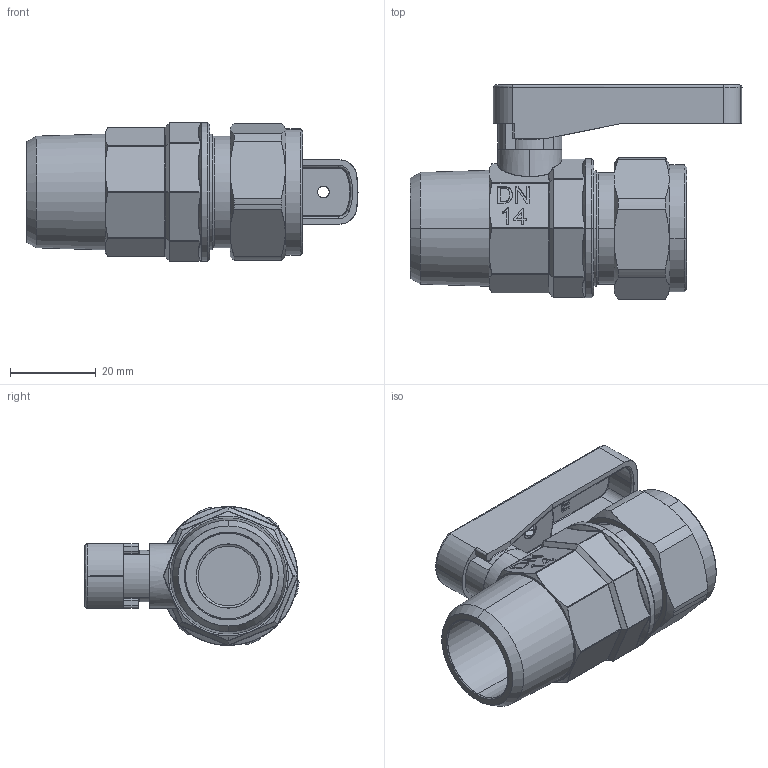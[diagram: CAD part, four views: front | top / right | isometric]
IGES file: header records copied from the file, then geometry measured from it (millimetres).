
Start section: SolidWorks IGES file using analytic representation for surfaces
Global section: file name: K:\Disegni Esecutivi\GHILUX\ASSIEMI_GHILUX\6350\ASSIEMI_PIENI_6350\0635000009B.IGS; native system: SolidWorks 2009; preprocessor: SolidWorks 2009; author: cad02; date: 100315.090637; units: millimetre
Bounding box: 77.6 x 50.03 x 32.5 mm (x, y, z)
Surface area: 14973.4 mm2 (no closed solid volume)
Topology: 0 solids, 0 shells, 986 faces, 9255 edges, 9227 vertices
Faces by surface type: bspline 718, revolution 268
